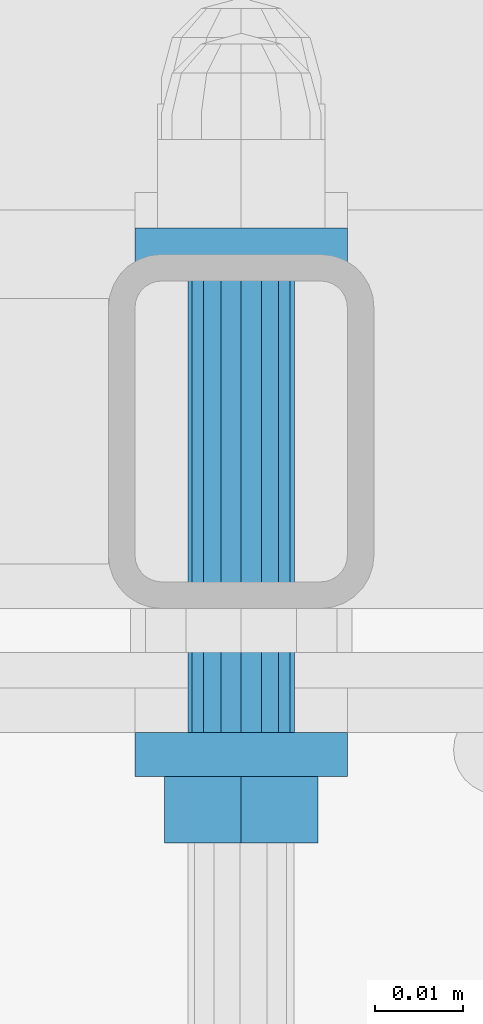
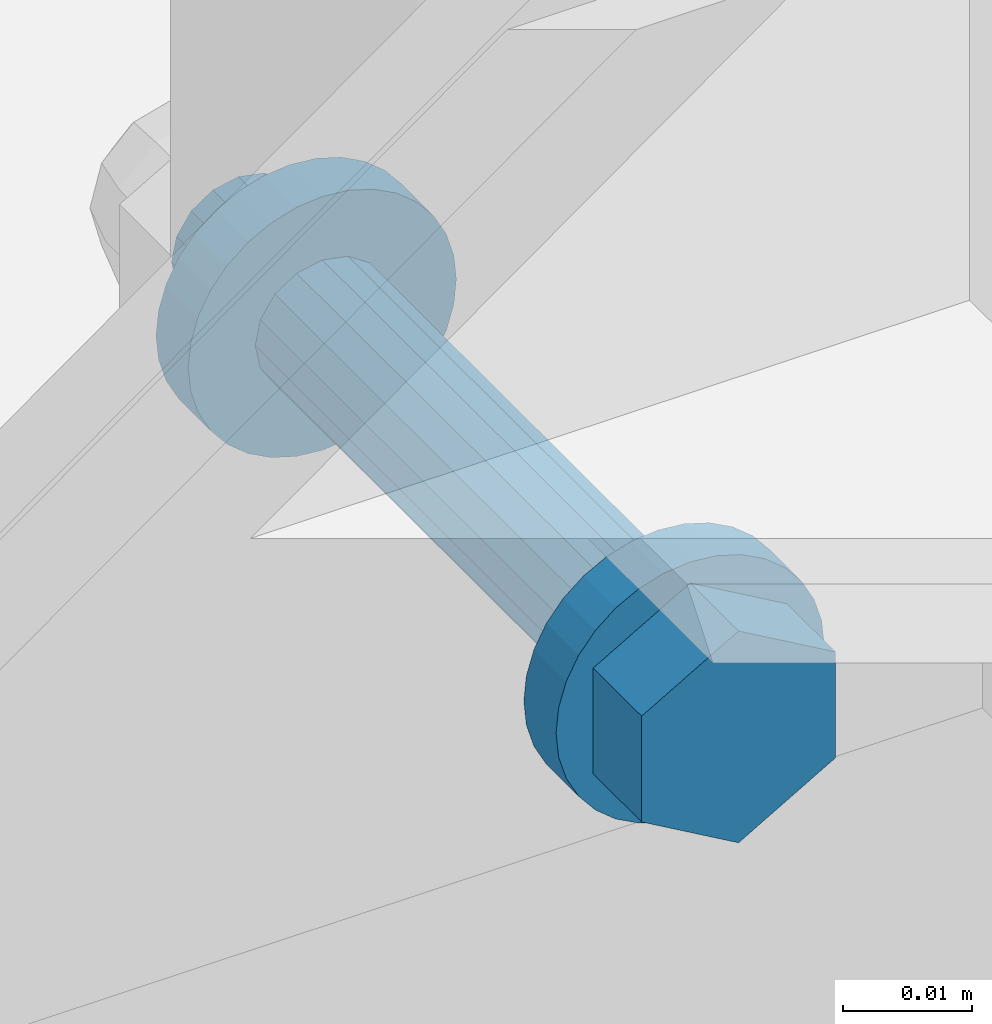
# One storey, part 88 of 116: 1 mechanical fastener.
"""IFC2X3 building model written with IfcOpenShell, lengths in millimetres."""

from ifc_helpers import new_model, entity, si_unit, converted_unit, origin_with_axes, place, context, project, spatial, faceted_brep, element, save


model = new_model("IFC2X3")

# Units and contexts
model_context = context("Model", 3, precision=1e-09, world=origin_with_axes())
ifc_project = project(units=[si_unit("LENGTHUNIT", "METRE", prefix="MILLI"), si_unit("AREAUNIT", "SQUARE_METRE"), si_unit("VOLUMEUNIT", "CUBIC_METRE"), converted_unit("PLANEANGLEUNIT", "DEGREE", entity("IfcPlaneAngleMeasure", 0.01745329), si_unit("PLANEANGLEUNIT", "RADIAN"), dimensions=[0, 0, 0, 0, 0, 0, 0])], contexts=[model_context])

# Site, building, storey
site_placement = place(None, origin_with_axes())
site = spatial("IfcSite", under=ifc_project, at=site_placement, Name="Site", CompositionType="ELEMENT")
building_placement = place(site_placement, origin_with_axes())
building = spatial("IfcBuilding", under=site, at=building_placement, Name="Struktur 1", CompositionType="ELEMENT")
storey_placement = place(building_placement, origin_with_axes())
storey = spatial("IfcBuildingStorey", under=building, at=storey_placement, Name="Default Storey", CompositionType="ELEMENT", Elevation=0.0)

# Mechanical fastener
mechanical_fastener_placement = place(None, origin_with_axes())
element("IfcMechanicalFastener", 1, at=mechanical_fastener_placement, inside=storey, ObjectType="-", NominalDiameter=12.0, NominalLength=70.0, context=model_context, shape_type="Brep", body=[
    faceted_brep([(60565.049134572, 10418.858883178, -1308.0), (60565.049134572, 10421.358883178, -1308.0), (60565.279711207, 10421.358883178, -1310.341083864), (60565.279711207, 10418.858883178, -1310.341083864), (60565.962580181, 10421.358883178, -1312.592201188), (60565.962580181, 10418.858883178, -1312.592201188), (60567.071499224, 10421.358883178, -1314.666842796), (60567.071499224, 10418.858883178, -1314.666842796), (60568.563853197, 10421.358883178, -1316.485281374), (60568.563853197, 10418.858883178, -1316.485281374), (60570.382291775, 10421.358883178, -1317.977635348), (60570.382291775, 10418.858883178, -1317.977635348), (60572.456933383, 10421.358883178, -1319.08655439), (60572.456933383, 10418.858883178, -1319.08655439), (60574.708050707, 10421.358883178, -1319.769423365), (60574.708050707, 10418.858883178, -1319.769423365), (60577.049134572, 10421.358883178, -1320.0), (60577.049134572, 10418.858883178, -1320.0), (60579.390218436, 10421.358883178, -1319.769423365), (60579.390218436, 10418.858883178, -1319.769423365), (60581.64133576, 10421.358883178, -1319.08655439), (60581.64133576, 10418.858883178, -1319.08655439), (60583.715977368, 10421.358883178, -1317.977635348), (60583.715977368, 10418.858883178, -1317.977635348), (60585.534415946, 10421.358883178, -1316.485281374), (60585.534415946, 10418.858883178, -1316.485281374), (60587.026769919, 10421.358883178, -1314.666842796), (60587.026769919, 10418.858883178, -1314.666842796), (60588.135688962, 10421.358883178, -1312.592201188), (60588.135688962, 10418.858883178, -1312.592201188), (60588.818557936, 10421.358883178, -1310.341083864), (60588.818557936, 10418.858883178, -1310.341083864), (60589.049134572, 10421.358883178, -1308.0), (60589.049134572, 10418.858883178, -1308.0), (60588.818557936, 10421.358883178, -1305.658916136), (60588.818557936, 10418.858883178, -1305.658916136), (60588.135688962, 10421.358883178, -1303.407798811), (60588.135688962, 10418.858883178, -1303.407798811), (60587.026769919, 10421.358883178, -1301.333157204), (60587.026769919, 10418.858883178, -1301.333157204), (60585.534415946, 10421.358883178, -1299.514718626), (60585.534415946, 10418.858883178, -1299.514718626), (60583.715977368, 10421.358883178, -1298.022364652), (60583.715977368, 10418.858883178, -1298.022364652), (60581.64133576, 10421.358883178, -1296.91344561), (60581.64133576, 10418.858883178, -1296.91344561), (60579.390218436, 10421.358883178, -1296.230576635), (60579.390218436, 10418.858883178, -1296.230576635), (60577.049134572, 10421.358883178, -1296.0), (60577.049134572, 10418.858883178, -1296.0), (60574.708050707, 10421.358883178, -1296.230576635), (60574.708050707, 10418.858883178, -1296.230576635), (60572.456933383, 10421.358883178, -1296.91344561), (60572.456933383, 10418.858883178, -1296.91344561), (60570.382291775, 10421.358883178, -1298.022364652), (60570.382291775, 10418.858883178, -1298.022364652), (60568.563853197, 10421.358883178, -1299.514718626), (60568.563853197, 10418.858883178, -1299.514718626), (60567.071499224, 10421.358883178, -1301.333157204), (60567.071499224, 10418.858883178, -1301.333157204), (60565.962580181, 10421.358883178, -1303.407798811), (60565.962580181, 10418.858883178, -1303.407798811), (60565.279711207, 10421.358883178, -1305.658916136), (60565.279711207, 10418.858883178, -1305.658916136)], [[[0, 1, 2, 3]], [[3, 2, 4, 5]], [[5, 4, 6, 7]], [[7, 6, 8, 9]], [[9, 8, 10, 11]], [[11, 10, 12, 13]], [[13, 12, 14, 15]], [[15, 14, 16, 17]], [[17, 16, 18, 19]], [[19, 18, 20, 21]], [[21, 20, 22, 23]], [[23, 22, 24, 25]], [[25, 24, 26, 27]], [[27, 26, 28, 29]], [[29, 28, 30, 31]], [[31, 30, 32, 33]], [[33, 32, 34, 35]], [[35, 34, 36, 37]], [[37, 36, 38, 39]], [[39, 38, 40, 41]], [[41, 40, 42, 43]], [[43, 42, 44, 45]], [[45, 44, 46, 47]], [[47, 46, 48, 49]], [[49, 48, 50, 51]], [[51, 50, 52, 53]], [[53, 52, 54, 55]], [[55, 54, 56, 57]], [[57, 56, 58, 59]], [[59, 58, 60, 61]], [[61, 60, 62, 63]], [[63, 62, 1, 0]], [[0, 3, 5, 7, 9, 11, 13, 15, 17, 19, 21, 23, 25, 27, 29, 31, 33, 35, 37, 39, 41, 43, 45, 47, 49, 51, 53, 55, 57, 59, 61, 63]], [[1, 62, 60, 58, 56, 54, 52, 50, 48, 46, 44, 42, 40, 38, 36, 34, 32, 30, 28, 26, 24, 22, 20, 18, 16, 14, 12, 10, 8, 6, 4, 2]]]),
    faceted_brep([(60565.049134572, 10416.358883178, -1308.0), (60565.049134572, 10418.858883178, -1308.0), (60565.279711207, 10418.858883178, -1310.341083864), (60565.279711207, 10416.358883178, -1310.341083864), (60565.962580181, 10418.858883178, -1312.592201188), (60565.962580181, 10416.358883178, -1312.592201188), (60567.071499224, 10418.858883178, -1314.666842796), (60567.071499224, 10416.358883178, -1314.666842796), (60568.563853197, 10418.858883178, -1316.485281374), (60568.563853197, 10416.358883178, -1316.485281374), (60570.382291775, 10418.858883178, -1317.977635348), (60570.382291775, 10416.358883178, -1317.977635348), (60572.456933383, 10418.858883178, -1319.08655439), (60572.456933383, 10416.358883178, -1319.08655439), (60574.708050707, 10418.858883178, -1319.769423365), (60574.708050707, 10416.358883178, -1319.769423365), (60577.049134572, 10418.858883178, -1320.0), (60577.049134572, 10416.358883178, -1320.0), (60579.390218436, 10418.858883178, -1319.769423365), (60579.390218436, 10416.358883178, -1319.769423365), (60581.64133576, 10418.858883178, -1319.08655439), (60581.64133576, 10416.358883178, -1319.08655439), (60583.715977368, 10418.858883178, -1317.977635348), (60583.715977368, 10416.358883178, -1317.977635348), (60585.534415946, 10418.858883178, -1316.485281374), (60585.534415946, 10416.358883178, -1316.485281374), (60587.026769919, 10418.858883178, -1314.666842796), (60587.026769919, 10416.358883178, -1314.666842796), (60588.135688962, 10418.858883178, -1312.592201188), (60588.135688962, 10416.358883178, -1312.592201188), (60588.818557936, 10418.858883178, -1310.341083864), (60588.818557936, 10416.358883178, -1310.341083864), (60589.049134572, 10418.858883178, -1308.0), (60589.049134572, 10416.358883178, -1308.0), (60588.818557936, 10418.858883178, -1305.658916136), (60588.818557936, 10416.358883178, -1305.658916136), (60588.135688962, 10418.858883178, -1303.407798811), (60588.135688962, 10416.358883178, -1303.407798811), (60587.026769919, 10418.858883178, -1301.333157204), (60587.026769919, 10416.358883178, -1301.333157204), (60585.534415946, 10418.858883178, -1299.514718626), (60585.534415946, 10416.358883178, -1299.514718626), (60583.715977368, 10418.858883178, -1298.022364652), (60583.715977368, 10416.358883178, -1298.022364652), (60581.64133576, 10418.858883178, -1296.91344561), (60581.64133576, 10416.358883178, -1296.91344561), (60579.390218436, 10418.858883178, -1296.230576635), (60579.390218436, 10416.358883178, -1296.230576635), (60577.049134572, 10418.858883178, -1296.0), (60577.049134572, 10416.358883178, -1296.0), (60574.708050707, 10418.858883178, -1296.230576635), (60574.708050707, 10416.358883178, -1296.230576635), (60572.456933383, 10418.858883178, -1296.91344561), (60572.456933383, 10416.358883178, -1296.91344561), (60570.382291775, 10418.858883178, -1298.022364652), (60570.382291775, 10416.358883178, -1298.022364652), (60568.563853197, 10418.858883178, -1299.514718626), (60568.563853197, 10416.358883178, -1299.514718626), (60567.071499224, 10418.858883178, -1301.333157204), (60567.071499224, 10416.358883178, -1301.333157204), (60565.962580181, 10418.858883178, -1303.407798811), (60565.962580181, 10416.358883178, -1303.407798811), (60565.279711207, 10418.858883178, -1305.658916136), (60565.279711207, 10416.358883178, -1305.658916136)], [[[0, 1, 2, 3]], [[3, 2, 4, 5]], [[5, 4, 6, 7]], [[7, 6, 8, 9]], [[9, 8, 10, 11]], [[11, 10, 12, 13]], [[13, 12, 14, 15]], [[15, 14, 16, 17]], [[17, 16, 18, 19]], [[19, 18, 20, 21]], [[21, 20, 22, 23]], [[23, 22, 24, 25]], [[25, 24, 26, 27]], [[27, 26, 28, 29]], [[29, 28, 30, 31]], [[31, 30, 32, 33]], [[33, 32, 34, 35]], [[35, 34, 36, 37]], [[37, 36, 38, 39]], [[39, 38, 40, 41]], [[41, 40, 42, 43]], [[43, 42, 44, 45]], [[45, 44, 46, 47]], [[47, 46, 48, 49]], [[49, 48, 50, 51]], [[51, 50, 52, 53]], [[53, 52, 54, 55]], [[55, 54, 56, 57]], [[57, 56, 58, 59]], [[59, 58, 60, 61]], [[61, 60, 62, 63]], [[63, 62, 1, 0]], [[0, 3, 5, 7, 9, 11, 13, 15, 17, 19, 21, 23, 25, 27, 29, 31, 33, 35, 37, 39, 41, 43, 45, 47, 49, 51, 53, 55, 57, 59, 61, 63]], [[1, 62, 60, 58, 56, 54, 52, 50, 48, 46, 44, 42, 40, 38, 36, 34, 32, 30, 28, 26, 24, 22, 20, 18, 16, 14, 12, 10, 8, 6, 4, 2]]]),
    faceted_brep([(60585.722378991, 10416.358883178, -1313.0075), (60585.722378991, 10408.858883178, -1313.0075), (60577.049134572, 10408.858883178, -1318.015), (60577.049134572, 10416.358883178, -1318.015), (60568.375890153, 10408.858883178, -1313.0075), (60568.375890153, 10416.358883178, -1313.0075), (60568.375890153, 10408.858883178, -1302.9925), (60568.375890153, 10416.358883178, -1302.9925), (60577.049134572, 10408.858883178, -1297.985), (60577.049134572, 10416.358883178, -1297.985), (60585.722378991, 10408.858883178, -1302.9925), (60585.722378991, 10416.358883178, -1302.9925)], [[[0, 1, 2, 3]], [[3, 2, 4, 5]], [[5, 4, 6, 7]], [[7, 6, 8, 9]], [[9, 8, 10, 11]], [[11, 10, 1, 0]], [[4, 2, 1, 10, 8, 6]], [[0, 3, 5, 7, 9, 11]]]),
    faceted_brep([(60571.049134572, 10421.358883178, -1308.0), (60571.049134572, 10473.357883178, -1308.0), (60571.505857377, 10473.357883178, -1310.296100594), (60571.505857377, 10421.358883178, -1310.296100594), (60572.806493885, 10473.357883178, -1312.242640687), (60572.806493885, 10421.358883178, -1312.242640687), (60574.753033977, 10473.357883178, -1313.543277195), (60574.753033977, 10421.358883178, -1313.543277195), (60577.049134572, 10473.357883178, -1314.0), (60577.049134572, 10421.358883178, -1314.0), (60579.345235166, 10473.357883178, -1313.543277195), (60579.345235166, 10421.358883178, -1313.543277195), (60581.291775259, 10473.357883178, -1312.242640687), (60581.291775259, 10421.358883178, -1312.242640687), (60582.592411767, 10473.357883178, -1310.296100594), (60582.592411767, 10421.358883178, -1310.296100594), (60583.049134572, 10473.357883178, -1308.0), (60583.049134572, 10421.358883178, -1308.0), (60582.592411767, 10473.357883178, -1305.703899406), (60582.592411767, 10421.358883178, -1305.703899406), (60581.291775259, 10473.357883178, -1303.757359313), (60581.291775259, 10421.358883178, -1303.757359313), (60579.345235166, 10473.357883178, -1302.456722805), (60579.345235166, 10421.358883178, -1302.456722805), (60577.049134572, 10473.357883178, -1302.0), (60577.049134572, 10421.358883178, -1302.0), (60574.753033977, 10473.357883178, -1302.456722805), (60574.753033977, 10421.358883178, -1302.456722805), (60572.806493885, 10473.357883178, -1303.757359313), (60572.806493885, 10421.358883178, -1303.757359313), (60571.505857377, 10473.357883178, -1305.703899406), (60571.505857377, 10421.358883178, -1305.703899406)], [[[0, 1, 2, 3]], [[3, 2, 4, 5]], [[5, 4, 6, 7]], [[7, 6, 8, 9]], [[9, 8, 10, 11]], [[11, 10, 12, 13]], [[13, 12, 14, 15]], [[15, 14, 16, 17]], [[17, 16, 18, 19]], [[19, 18, 20, 21]], [[21, 20, 22, 23]], [[23, 22, 24, 25]], [[25, 24, 26, 27]], [[27, 26, 28, 29]], [[29, 28, 30, 31]], [[31, 30, 1, 0]], [[0, 3, 5, 7, 9, 11, 13, 15, 17, 19, 21, 23, 25, 27, 29, 31]], [[1, 30, 28, 26, 24, 22, 20, 18, 16, 14, 12, 10, 8, 6, 4, 2]]]),
    faceted_brep([(60565.049134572, 10473.357883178, -1308.0), (60565.049134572, 10475.857883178, -1308.0), (60565.279711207, 10475.857883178, -1310.341083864), (60565.279711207, 10473.357883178, -1310.341083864), (60565.962580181, 10475.857883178, -1312.592201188), (60565.962580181, 10473.357883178, -1312.592201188), (60567.071499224, 10475.857883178, -1314.666842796), (60567.071499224, 10473.357883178, -1314.666842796), (60568.563853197, 10475.857883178, -1316.485281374), (60568.563853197, 10473.357883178, -1316.485281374), (60570.382291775, 10475.857883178, -1317.977635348), (60570.382291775, 10473.357883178, -1317.977635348), (60572.456933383, 10475.857883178, -1319.08655439), (60572.456933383, 10473.357883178, -1319.08655439), (60574.708050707, 10475.857883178, -1319.769423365), (60574.708050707, 10473.357883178, -1319.769423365), (60577.049134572, 10475.857883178, -1320.0), (60577.049134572, 10473.357883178, -1320.0), (60579.390218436, 10475.857883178, -1319.769423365), (60579.390218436, 10473.357883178, -1319.769423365), (60581.64133576, 10475.857883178, -1319.08655439), (60581.64133576, 10473.357883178, -1319.08655439), (60583.715977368, 10475.857883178, -1317.977635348), (60583.715977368, 10473.357883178, -1317.977635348), (60585.534415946, 10475.857883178, -1316.485281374), (60585.534415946, 10473.357883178, -1316.485281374), (60587.026769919, 10475.857883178, -1314.666842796), (60587.026769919, 10473.357883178, -1314.666842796), (60588.135688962, 10475.857883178, -1312.592201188), (60588.135688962, 10473.357883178, -1312.592201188), (60588.818557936, 10475.857883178, -1310.341083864), (60588.818557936, 10473.357883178, -1310.341083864), (60589.049134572, 10475.857883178, -1308.0), (60589.049134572, 10473.357883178, -1308.0), (60588.818557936, 10475.857883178, -1305.658916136), (60588.818557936, 10473.357883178, -1305.658916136), (60588.135688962, 10475.857883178, -1303.407798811), (60588.135688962, 10473.357883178, -1303.407798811), (60587.026769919, 10475.857883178, -1301.333157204), (60587.026769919, 10473.357883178, -1301.333157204), (60585.534415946, 10475.857883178, -1299.514718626), (60585.534415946, 10473.357883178, -1299.514718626), (60583.715977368, 10475.857883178, -1298.022364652), (60583.715977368, 10473.357883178, -1298.022364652), (60581.64133576, 10475.857883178, -1296.91344561), (60581.64133576, 10473.357883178, -1296.91344561), (60579.390218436, 10475.857883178, -1296.230576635), (60579.390218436, 10473.357883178, -1296.230576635), (60577.049134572, 10475.857883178, -1296.0), (60577.049134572, 10473.357883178, -1296.0), (60574.708050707, 10475.857883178, -1296.230576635), (60574.708050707, 10473.357883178, -1296.230576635), (60572.456933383, 10475.857883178, -1296.91344561), (60572.456933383, 10473.357883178, -1296.91344561), (60570.382291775, 10475.857883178, -1298.022364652), (60570.382291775, 10473.357883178, -1298.022364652), (60568.563853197, 10475.857883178, -1299.514718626), (60568.563853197, 10473.357883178, -1299.514718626), (60567.071499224, 10475.857883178, -1301.333157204), (60567.071499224, 10473.357883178, -1301.333157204), (60565.962580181, 10475.857883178, -1303.407798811), (60565.962580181, 10473.357883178, -1303.407798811), (60565.279711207, 10475.857883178, -1305.658916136), (60565.279711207, 10473.357883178, -1305.658916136)], [[[0, 1, 2, 3]], [[3, 2, 4, 5]], [[5, 4, 6, 7]], [[7, 6, 8, 9]], [[9, 8, 10, 11]], [[11, 10, 12, 13]], [[13, 12, 14, 15]], [[15, 14, 16, 17]], [[17, 16, 18, 19]], [[19, 18, 20, 21]], [[21, 20, 22, 23]], [[23, 22, 24, 25]], [[25, 24, 26, 27]], [[27, 26, 28, 29]], [[29, 28, 30, 31]], [[31, 30, 32, 33]], [[33, 32, 34, 35]], [[35, 34, 36, 37]], [[37, 36, 38, 39]], [[39, 38, 40, 41]], [[41, 40, 42, 43]], [[43, 42, 44, 45]], [[45, 44, 46, 47]], [[47, 46, 48, 49]], [[49, 48, 50, 51]], [[51, 50, 52, 53]], [[53, 52, 54, 55]], [[55, 54, 56, 57]], [[57, 56, 58, 59]], [[59, 58, 60, 61]], [[61, 60, 62, 63]], [[63, 62, 1, 0]], [[0, 3, 5, 7, 9, 11, 13, 15, 17, 19, 21, 23, 25, 27, 29, 31, 33, 35, 37, 39, 41, 43, 45, 47, 49, 51, 53, 55, 57, 59, 61, 63]], [[1, 62, 60, 58, 56, 54, 52, 50, 48, 46, 44, 42, 40, 38, 36, 34, 32, 30, 28, 26, 24, 22, 20, 18, 16, 14, 12, 10, 8, 6, 4, 2]]]),
    faceted_brep([(60565.049134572, 10475.857883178, -1308.0), (60565.049134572, 10478.357883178, -1308.0), (60565.279711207, 10478.357883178, -1310.341083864), (60565.279711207, 10475.857883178, -1310.341083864), (60565.962580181, 10478.357883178, -1312.592201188), (60565.962580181, 10475.857883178, -1312.592201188), (60567.071499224, 10478.357883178, -1314.666842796), (60567.071499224, 10475.857883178, -1314.666842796), (60568.563853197, 10478.357883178, -1316.485281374), (60568.563853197, 10475.857883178, -1316.485281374), (60570.382291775, 10478.357883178, -1317.977635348), (60570.382291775, 10475.857883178, -1317.977635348), (60572.456933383, 10478.357883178, -1319.08655439), (60572.456933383, 10475.857883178, -1319.08655439), (60574.708050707, 10478.357883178, -1319.769423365), (60574.708050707, 10475.857883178, -1319.769423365), (60577.049134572, 10478.357883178, -1320.0), (60577.049134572, 10475.857883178, -1320.0), (60579.390218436, 10478.357883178, -1319.769423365), (60579.390218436, 10475.857883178, -1319.769423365), (60581.64133576, 10478.357883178, -1319.08655439), (60581.64133576, 10475.857883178, -1319.08655439), (60583.715977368, 10478.357883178, -1317.977635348), (60583.715977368, 10475.857883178, -1317.977635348), (60585.534415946, 10478.357883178, -1316.485281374), (60585.534415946, 10475.857883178, -1316.485281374), (60587.026769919, 10478.357883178, -1314.666842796), (60587.026769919, 10475.857883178, -1314.666842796), (60588.135688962, 10478.357883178, -1312.592201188), (60588.135688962, 10475.857883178, -1312.592201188), (60588.818557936, 10478.357883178, -1310.341083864), (60588.818557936, 10475.857883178, -1310.341083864), (60589.049134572, 10478.357883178, -1308.0), (60589.049134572, 10475.857883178, -1308.0), (60588.818557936, 10478.357883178, -1305.658916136), (60588.818557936, 10475.857883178, -1305.658916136), (60588.135688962, 10478.357883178, -1303.407798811), (60588.135688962, 10475.857883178, -1303.407798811), (60587.026769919, 10478.357883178, -1301.333157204), (60587.026769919, 10475.857883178, -1301.333157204), (60585.534415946, 10478.357883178, -1299.514718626), (60585.534415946, 10475.857883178, -1299.514718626), (60583.715977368, 10478.357883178, -1298.022364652), (60583.715977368, 10475.857883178, -1298.022364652), (60581.64133576, 10478.357883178, -1296.91344561), (60581.64133576, 10475.857883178, -1296.91344561), (60579.390218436, 10478.357883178, -1296.230576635), (60579.390218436, 10475.857883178, -1296.230576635), (60577.049134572, 10478.357883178, -1296.0), (60577.049134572, 10475.857883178, -1296.0), (60574.708050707, 10478.357883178, -1296.230576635), (60574.708050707, 10475.857883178, -1296.230576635), (60572.456933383, 10478.357883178, -1296.91344561), (60572.456933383, 10475.857883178, -1296.91344561), (60570.382291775, 10478.357883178, -1298.022364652), (60570.382291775, 10475.857883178, -1298.022364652), (60568.563853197, 10478.357883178, -1299.514718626), (60568.563853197, 10475.857883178, -1299.514718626), (60567.071499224, 10478.357883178, -1301.333157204), (60567.071499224, 10475.857883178, -1301.333157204), (60565.962580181, 10478.357883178, -1303.407798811), (60565.962580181, 10475.857883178, -1303.407798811), (60565.279711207, 10478.357883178, -1305.658916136), (60565.279711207, 10475.857883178, -1305.658916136)], [[[0, 1, 2, 3]], [[3, 2, 4, 5]], [[5, 4, 6, 7]], [[7, 6, 8, 9]], [[9, 8, 10, 11]], [[11, 10, 12, 13]], [[13, 12, 14, 15]], [[15, 14, 16, 17]], [[17, 16, 18, 19]], [[19, 18, 20, 21]], [[21, 20, 22, 23]], [[23, 22, 24, 25]], [[25, 24, 26, 27]], [[27, 26, 28, 29]], [[29, 28, 30, 31]], [[31, 30, 32, 33]], [[33, 32, 34, 35]], [[35, 34, 36, 37]], [[37, 36, 38, 39]], [[39, 38, 40, 41]], [[41, 40, 42, 43]], [[43, 42, 44, 45]], [[45, 44, 46, 47]], [[47, 46, 48, 49]], [[49, 48, 50, 51]], [[51, 50, 52, 53]], [[53, 52, 54, 55]], [[55, 54, 56, 57]], [[57, 56, 58, 59]], [[59, 58, 60, 61]], [[61, 60, 62, 63]], [[63, 62, 1, 0]], [[0, 3, 5, 7, 9, 11, 13, 15, 17, 19, 21, 23, 25, 27, 29, 31, 33, 35, 37, 39, 41, 43, 45, 47, 49, 51, 53, 55, 57, 59, 61, 63]], [[1, 62, 60, 58, 56, 54, 52, 50, 48, 46, 44, 42, 40, 38, 36, 34, 32, 30, 28, 26, 24, 22, 20, 18, 16, 14, 12, 10, 8, 6, 4, 2]]]),
    faceted_brep([(60571.049134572, 10478.357883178, -1308.0), (60571.049134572, 10486.358883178, -1308.0), (60571.505857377, 10486.358883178, -1310.296100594), (60571.505857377, 10478.357883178, -1310.296100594), (60572.806493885, 10486.358883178, -1312.242640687), (60572.806493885, 10478.357883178, -1312.242640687), (60574.753033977, 10486.358883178, -1313.543277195), (60574.753033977, 10478.357883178, -1313.543277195), (60577.049134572, 10486.358883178, -1314.0), (60577.049134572, 10478.357883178, -1314.0), (60579.345235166, 10486.358883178, -1313.543277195), (60579.345235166, 10478.357883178, -1313.543277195), (60581.291775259, 10486.358883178, -1312.242640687), (60581.291775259, 10478.357883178, -1312.242640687), (60582.592411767, 10486.358883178, -1310.296100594), (60582.592411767, 10478.357883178, -1310.296100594), (60583.049134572, 10486.358883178, -1308.0), (60583.049134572, 10478.357883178, -1308.0), (60582.592411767, 10486.358883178, -1305.703899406), (60582.592411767, 10478.357883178, -1305.703899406), (60581.291775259, 10486.358883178, -1303.757359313), (60581.291775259, 10478.357883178, -1303.757359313), (60579.345235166, 10486.358883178, -1302.456722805), (60579.345235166, 10478.357883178, -1302.456722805), (60577.049134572, 10486.358883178, -1302.0), (60577.049134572, 10478.357883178, -1302.0), (60574.753033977, 10486.358883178, -1302.456722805), (60574.753033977, 10478.357883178, -1302.456722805), (60572.806493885, 10486.358883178, -1303.757359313), (60572.806493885, 10478.357883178, -1303.757359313), (60571.505857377, 10486.358883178, -1305.703899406), (60571.505857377, 10478.357883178, -1305.703899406)], [[[0, 1, 2, 3]], [[3, 2, 4, 5]], [[5, 4, 6, 7]], [[7, 6, 8, 9]], [[9, 8, 10, 11]], [[11, 10, 12, 13]], [[13, 12, 14, 15]], [[15, 14, 16, 17]], [[17, 16, 18, 19]], [[19, 18, 20, 21]], [[21, 20, 22, 23]], [[23, 22, 24, 25]], [[25, 24, 26, 27]], [[27, 26, 28, 29]], [[29, 28, 30, 31]], [[31, 30, 1, 0]], [[0, 3, 5, 7, 9, 11, 13, 15, 17, 19, 21, 23, 25, 27, 29, 31]], [[1, 30, 28, 26, 24, 22, 20, 18, 16, 14, 12, 10, 8, 6, 4, 2]]]),
])

save(model, "model.ifc")
